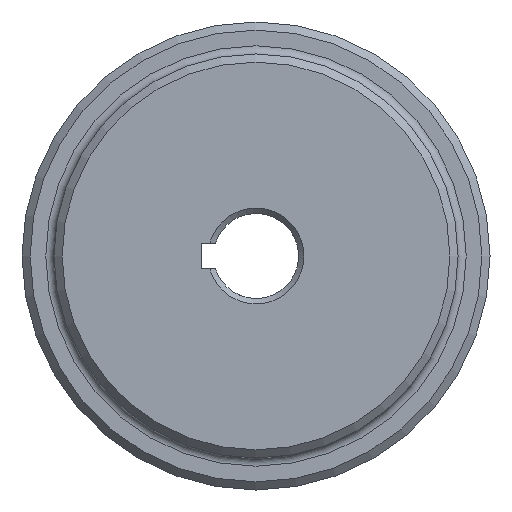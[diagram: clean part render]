
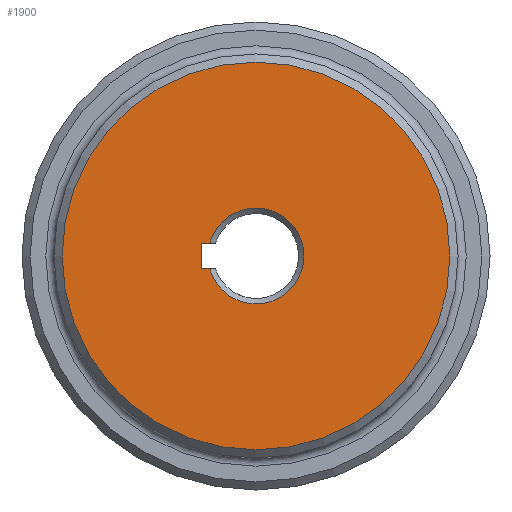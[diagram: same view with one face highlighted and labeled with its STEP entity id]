
A CAD part, left-side view. The second image highlights one B-rep face of the part: STEP entity #1900.
In plain terms, the highlighted planar face has unit normal (-1, 0, 0).
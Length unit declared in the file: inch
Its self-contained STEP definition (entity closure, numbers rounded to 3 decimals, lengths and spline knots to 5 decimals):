
#22 = ORIENTED_EDGE ( 'NONE', *, *, #1763, .F. ) ;
#78 = FACE_OUTER_BOUND ( 'NONE', #126, .T. ) ;
#100 = CARTESIAN_POINT ( 'NONE',  ( 0., 0., -0.0935 ) ) ;
#126 = EDGE_LOOP ( 'NONE', ( #1860 ) ) ;
#139 = VECTOR ( 'NONE', #1075, 39.37008 ) ;
#148 = PLANE ( 'NONE',  #564 ) ;
#161 = EDGE_LOOP ( 'NONE', ( #1456, #2089, #22, #1496 ) ) ;
#175 = CARTESIAN_POINT ( 'NONE',  ( 0., 0.39735, -0.0935 ) ) ;
#276 = CARTESIAN_POINT ( 'NONE',  ( 0., 0., 0.0935 ) ) ;
#300 = CARTESIAN_POINT ( 'NONE',  ( 0., 0., 0. ) ) ;
#408 = AXIS2_PLACEMENT_3D ( 'NONE', #1655, #993, #1978 ) ;
#459 = DIRECTION ( 'NONE',  ( 1., 0., 0. ) ) ;
#564 = AXIS2_PLACEMENT_3D ( 'NONE', #300, #459, #1650 ) ;
#607 = AXIS2_PLACEMENT_3D ( 'NONE', #872, #630, #1717 ) ;
#625 = CARTESIAN_POINT ( 'NONE',  ( 0., 0.34003, -0.0935 ) ) ;
#630 = DIRECTION ( 'NONE',  ( -1., 0., 0. ) ) ;
#669 = DIRECTION ( 'NONE',  ( 0., -1., 0. ) ) ;
#730 = VERTEX_POINT ( 'NONE', #1690 ) ;
#872 = CARTESIAN_POINT ( 'NONE',  ( 0., 0., 0. ) ) ;
#993 = DIRECTION ( 'NONE',  ( 1., 0., 0. ) ) ;
#994 = VECTOR ( 'NONE', #1518, 39.37008 ) ;
#1075 = DIRECTION ( 'NONE',  ( 0., 1., 0. ) ) ;
#1099 = CIRCLE ( 'NONE', #408, 0.35265 ) ;
#1149 = EDGE_CURVE ( 'NONE', #1638, #1638, #1695, .T. ) ;
#1233 = VERTEX_POINT ( 'NONE', #625 ) ;
#1410 = FACE_BOUND ( 'NONE', #161, .T. ) ;
#1423 = CARTESIAN_POINT ( 'NONE',  ( 0., 0.39735, -0.0935 ) ) ;
#1456 = ORIENTED_EDGE ( 'NONE', *, *, #2271, .F. ) ;
#1496 = ORIENTED_EDGE ( 'NONE', *, *, #1769, .F. ) ;
#1518 = DIRECTION ( 'NONE',  ( 0., 0., -1. ) ) ;
#1563 = EDGE_CURVE ( 'NONE', #1902, #1233, #1099, .T. ) ;
#1638 = VERTEX_POINT ( 'NONE', #1760 ) ;
#1650 = DIRECTION ( 'NONE',  ( 0., 0., -1. ) ) ;
#1655 = CARTESIAN_POINT ( 'NONE',  ( 0., 0., 0. ) ) ;
#1690 = CARTESIAN_POINT ( 'NONE',  ( 0., 0.39735, 0.0935 ) ) ;
#1695 = CIRCLE ( 'NONE', #607, 1.425 ) ;
#1712 = LINE ( 'NONE', #276, #139 ) ;
#1717 = DIRECTION ( 'NONE',  ( 0., 0., -1. ) ) ;
#1721 = LINE ( 'NONE', #175, #994 ) ;
#1760 = CARTESIAN_POINT ( 'NONE',  ( 0., 0., -1.425 ) ) ;
#1763 = EDGE_CURVE ( 'NONE', #2092, #1233, #2006, .T. ) ;
#1769 = EDGE_CURVE ( 'NONE', #730, #2092, #1721, .T. ) ;
#1815 = VECTOR ( 'NONE', #669, 39.37008 ) ;
#1860 = ORIENTED_EDGE ( 'NONE', *, *, #1149, .T. ) ;
#1900 = ADVANCED_FACE ( 'NONE', ( #78, #1410 ), #148, .F. ) ;
#1902 = VERTEX_POINT ( 'NONE', #2344 ) ;
#1978 = DIRECTION ( 'NONE',  ( 0., 0., -1. ) ) ;
#2006 = LINE ( 'NONE', #100, #1815 ) ;
#2089 = ORIENTED_EDGE ( 'NONE', *, *, #1563, .T. ) ;
#2092 = VERTEX_POINT ( 'NONE', #1423 ) ;
#2271 = EDGE_CURVE ( 'NONE', #1902, #730, #1712, .T. ) ;
#2344 = CARTESIAN_POINT ( 'NONE',  ( 0., 0.34003, 0.0935 ) ) ;
